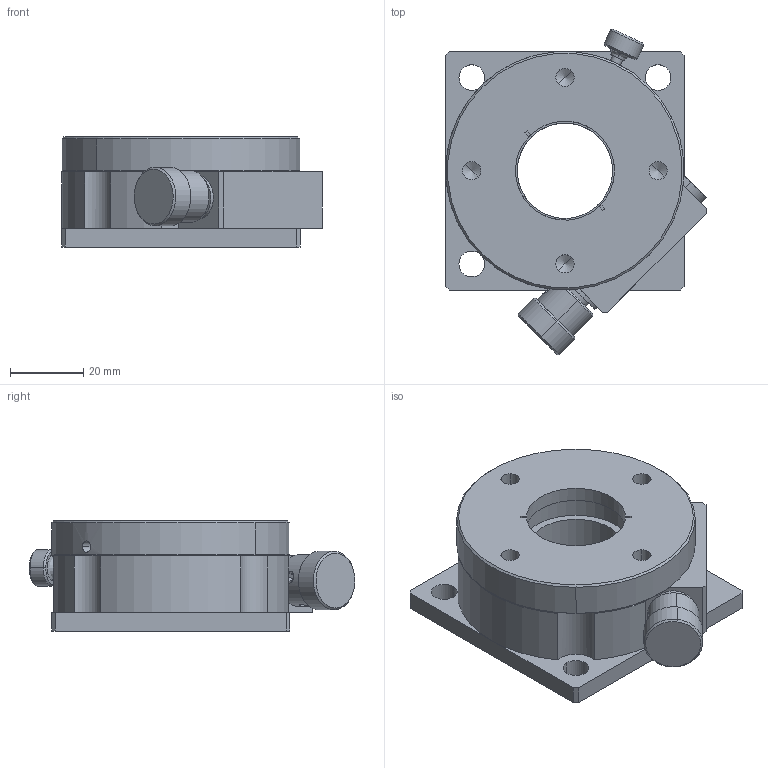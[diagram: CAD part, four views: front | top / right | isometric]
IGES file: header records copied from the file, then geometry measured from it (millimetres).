
Global section: file name: No Iges File Name specified; native system: AutoDesk Inventor R11.0; preprocessor: AutoDesk Inventor Iges Exporter R11.0; author: No Author specified; organization: No Organization specified; date: 20070718.103408; units: millimetre
Bounding box: 71.04 x 88.81 x 30 mm (x, y, z)
Volume: 86988.3 mm3; surface area: 37289.4 mm2
Topology: 32 solids, 34 shells, 565 faces, 1292 edges, 794 vertices
Faces by surface type: plane 180, bspline 148, cylinder 99, cone 57, revolution 51, sphere 24, torus 6
